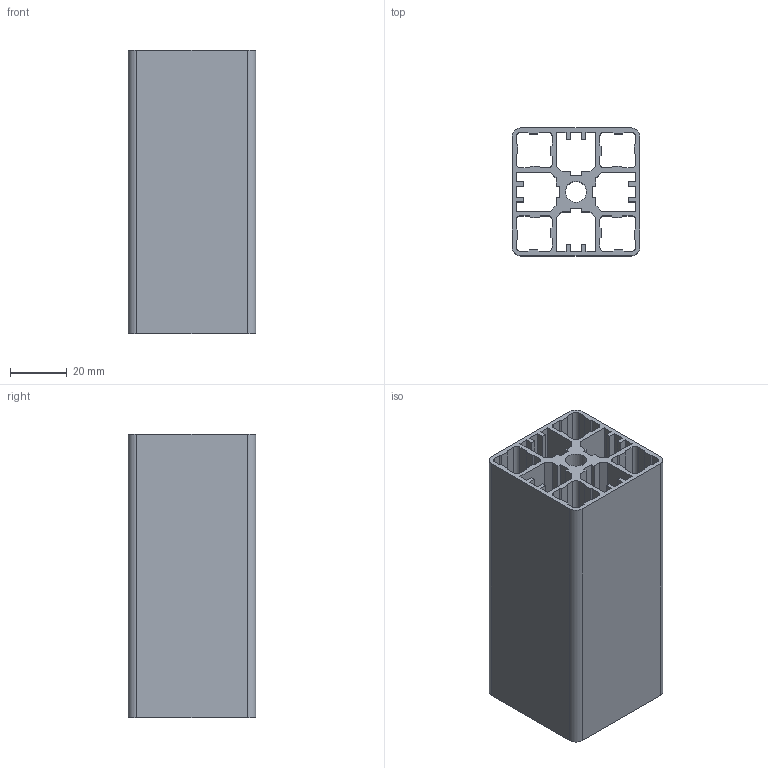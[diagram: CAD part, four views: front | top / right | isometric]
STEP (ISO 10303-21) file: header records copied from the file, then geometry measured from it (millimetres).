
FILE_DESCRIPTION (( 'STEP AP214' ), '1' );
FILE_NAME ('SA03001.step', '2024-12-03T16:29:00', ( '' ), ( '' ), 'SwSTEP 2.0', 'SolidWorks 2023', '' );
FILE_SCHEMA (( 'AUTOMOTIVE_DESIGN' ));
Length unit declared in the file: millimetre
Products named in the file (1): SA03001
Bounding box: 45 x 45 x 100 mm (x, y, z)
Volume: 62789 mm3; surface area: 67167.2 mm2
Topology: 1 solids, 1 shells, 179 faces, 531 edges, 354 vertices
Faces by surface type: plane 158, cylinder 21
Full cylindrical faces by diameter (mm): 7.45 x1
Entity records: 5961 total; most frequent: CARTESIAN_POINT 1064, ORIENTED_EDGE 1060, DIRECTION 932, EDGE_CURVE 530, LINE 488, VECTOR 488, VERTEX_POINT 354, AXIS2_PLACEMENT_3D 222
